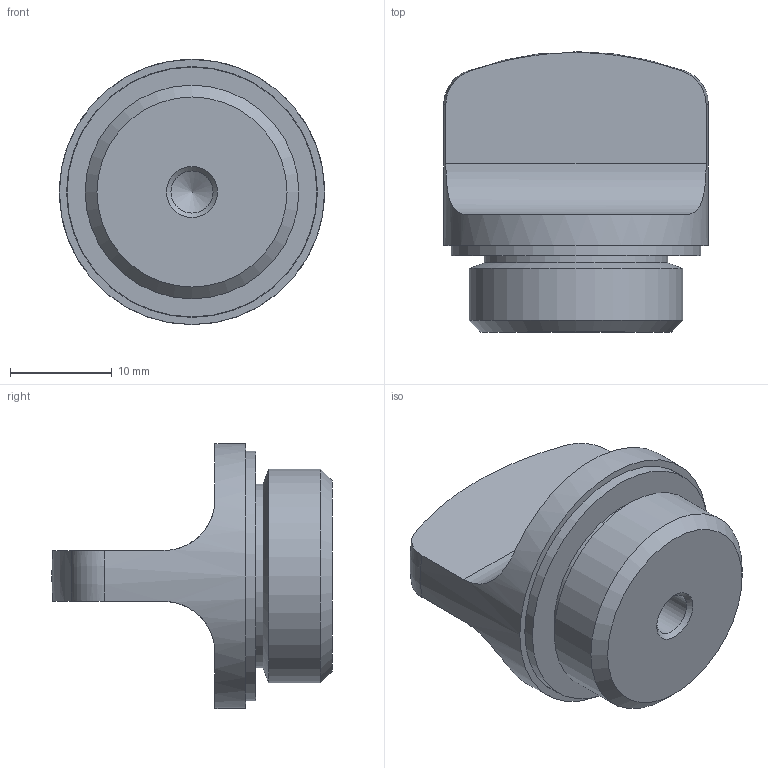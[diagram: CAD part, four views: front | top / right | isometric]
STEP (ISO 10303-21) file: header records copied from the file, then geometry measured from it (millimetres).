
FILE_DESCRIPTION( ( 'STEP AP203' ), '1' );
FILE_NAME( 'C:/Temp/Ganter_Step_05_03_2020/data/3_5/gn441/Threaded plug GN 441-26-G1_2-1-BL.stp', '2020-03-12T13:34:49', ( 'License CC BY-ND 4.0' ), ( 'CADENAS' ), ' ', 'PARTsolutions', ' ' );
FILE_SCHEMA( ( 'CONFIG_CONTROL_DESIGN' ) );
Length unit declared in the file: millimetre
Products named in the file (1): _Threaded plug GN 441-26-G1/2-1-BL
Bounding box: 26 x 27.5 x 26 mm (x, y, z)
Volume: 6464.1 mm3; surface area: 3435.6 mm2
Topology: 1 solids, 1 shells, 29 faces, 63 edges, 41 vertices
Faces by surface type: cylinder 11, plane 11, cone 4, torus 2, sphere 1
Full cylindrical faces by diameter (mm): 4.134 x1, 18 x1, 18.5 x1, 20.955 x1, 21.9 x1, 22 x1, 24.5 x1, 24.6 x1, 26 x1
Entity records: 850 total; most frequent: CARTESIAN_POINT 248, DIRECTION 122, ORIENTED_EDGE 86, AXIS2_PLACEMENT_3D 57, EDGE_LOOP 48, EDGE_CURVE 43, FACE_OUTER_BOUND 38, VERTEX_POINT 37
